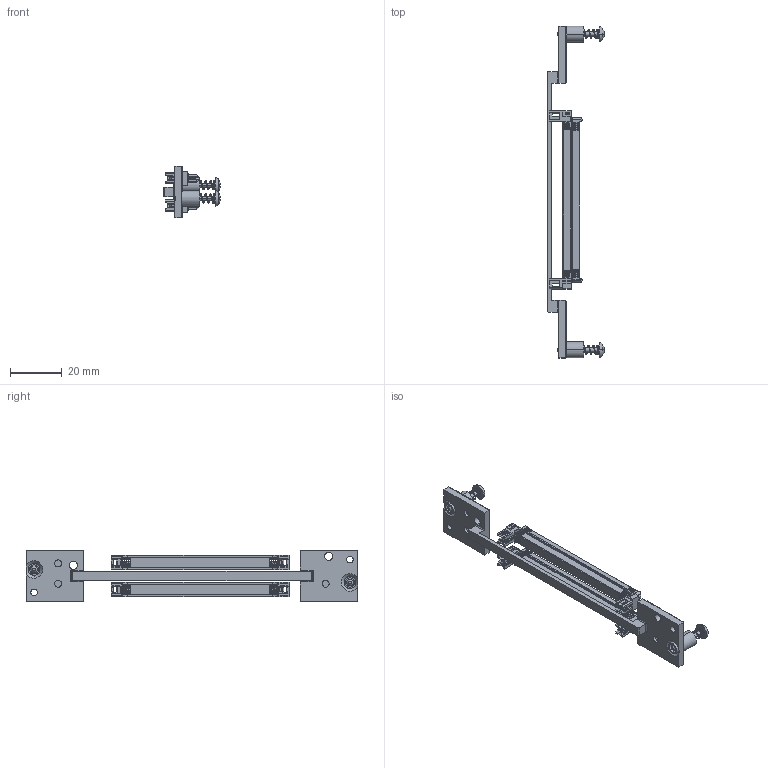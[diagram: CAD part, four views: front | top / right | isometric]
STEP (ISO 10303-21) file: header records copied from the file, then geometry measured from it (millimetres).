
FILE_DESCRIPTION((''),'2;1');
FILE_NAME('CU_PXI-2532B','2012-08-02T',('jjorden'),(''),'PRO/ENGINEER BY PARAMETRIC TECHNOLOGY CORPORATION, 2011490','PRO/ENGINEER BY PARAMETRIC TECHNOLOGY CORPORATION, 2011490','');
FILE_SCHEMA(('CONFIG_CONTROL_DESIGN'));
Products named in the file (1): CU_PXI-2532B
Bounding box: 21.93 x 128.68 x 20.02 mm (x, y, z)
Volume: 6840.7 mm3; surface area: 9530.8 mm2
Topology: 5 solids, 5 shells, 2386 faces, 7034 edges, 4608 vertices
Faces by surface type: plane 1935, cylinder 377, bspline 32, cone 26, torus 12, sphere 4
Entity records: 95762 total; most frequent: CARTESIAN_POINT 32488, ORIENTED_EDGE 14052, DIRECTION 11936, EDGE_CURVE 7026, VECTOR 5832, LINE 5832, VERTEX_POINT 4646, AXIS2_PLACEMENT_3D 3052
